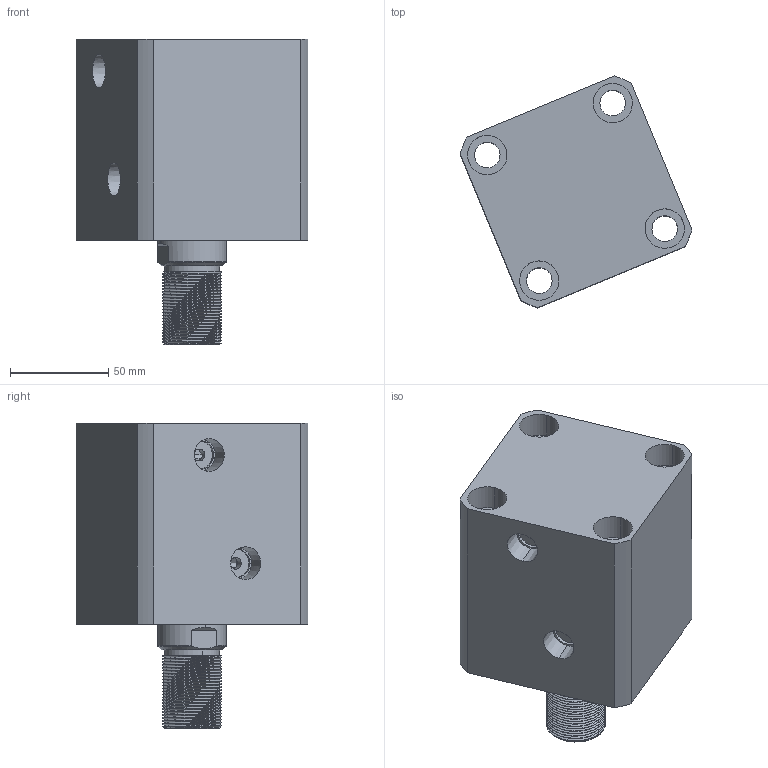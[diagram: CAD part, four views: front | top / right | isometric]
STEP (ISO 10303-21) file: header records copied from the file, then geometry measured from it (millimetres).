
FILE_DESCRIPTION (( 'STEP AP214' ), '1' );
FILE_NAME ('chtb-sd63x35w_asm.STEP', '2018-05-19T01:55:24', ( 'Windows' ), ( 'Microsoft' ), 'SwSTEP 2.0', 'SolidWorks 2015', '' );
FILE_SCHEMA (( 'AUTOMOTIVE_DESIGN' ));
Length unit declared in the file: millimetre
Products named in the file (4): CHTB63X35WHSG; CHTB63X35NBT; CHTB-63QG; chtb-sd63x35w_asm
Assembly tree (3 placements, depth 2):
  chtb-sd63x35w_asm
    CHTB-63QG
    CHTB63X35NBT
    CHTB63X35WHSG
Bounding box: 117.81 x 117.81 x 155 mm (x, y, z)
Volume: 778854.6 mm3; surface area: 137035.1 mm2
Topology: 3 solids, 3 shells, 219 faces, 625 edges, 427 vertices
Faces by surface type: cylinder 150, plane 36, bspline 14, cone 13, torus 6
Entity records: 22208 total; most frequent: CARTESIAN_POINT 16953, ORIENTED_EDGE 1242, DIRECTION 881, EDGE_CURVE 621, VERTEX_POINT 427, AXIS2_PLACEMENT_3D 346, EDGE_LOOP 252, ADVANCED_FACE 219
